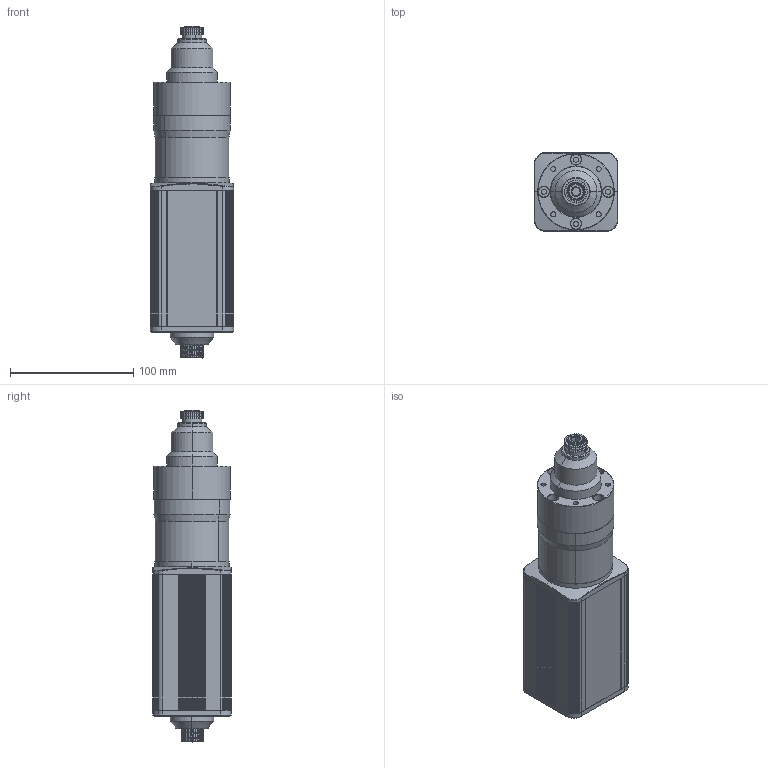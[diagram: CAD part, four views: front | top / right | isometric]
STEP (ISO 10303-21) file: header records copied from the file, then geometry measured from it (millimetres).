
FILE_DESCRIPTION (( 'STEP AP203' ), '1' );
FILE_NAME ('ZEDA-DE-MA6.35-0500 DE系列-低压高速智能电批.STEP', '2026-08-11T09:47:33', ( 'Windows User' ), ( 'P R C' ), 'SwSTEP 2.0', 'SolidWorks 2025', '' );
FILE_SCHEMA (( 'CONFIG_CONTROL_DESIGN' ));
Length unit declared in the file: millimetre
Products named in the file (1): ZEDA-DE-MA6.35-0500 DE系列-低压高速智能电批
Bounding box: 67.4 x 63.4 x 268.85 mm (x, y, z)
Surface area: 77561.1 mm2 (no closed solid volume)
Topology: 0 solids, 24 shells, 507 faces, 1549 edges, 1045 vertices
Faces by surface type: cylinder 303, plane 85, cone 54, bspline 39, torus 26
Entity records: 32476 total; most frequent: CARTESIAN_POINT 18989, DIRECTION 2950, ORIENTED_EDGE 2565, EDGE_CURVE 1549, AXIS2_PLACEMENT_3D 1185, VERTEX_POINT 1045, CIRCLE 716, LINE 580
